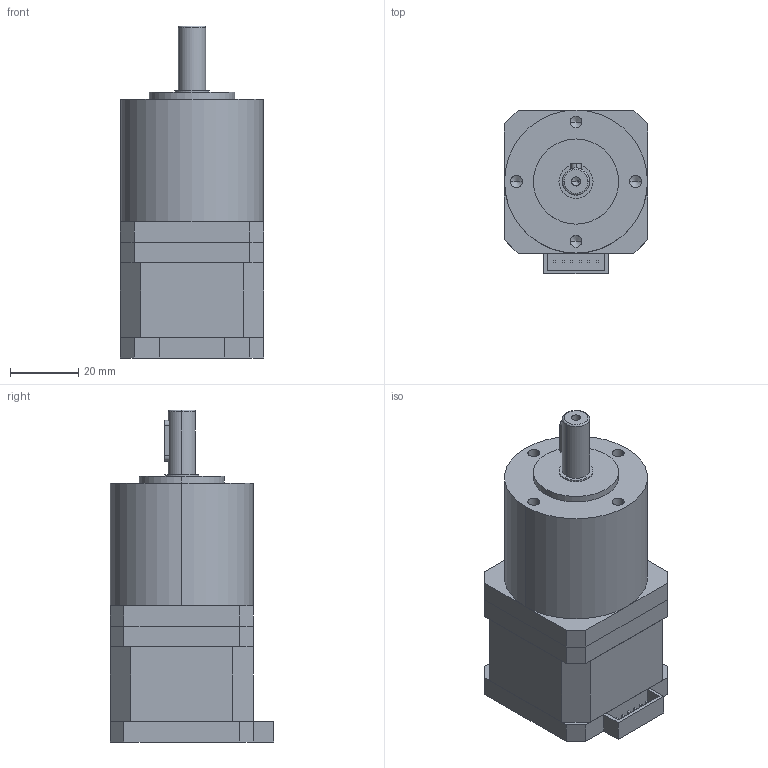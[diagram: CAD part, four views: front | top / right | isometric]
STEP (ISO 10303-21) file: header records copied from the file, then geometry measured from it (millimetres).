
FILE_DESCRIPTION (( 'STEP AP203' ), '1' );
FILE_NAME ('42PG005-D17-0434.STEP', '2019-09-21T08:20:57', ( 'China' ), ( 'Home' ), 'SwSTEP 2.0', 'SolidWorks 2016', '' );
FILE_SCHEMA (( 'CONFIG_CONTROL_DESIGN' ));
Length unit declared in the file: millimetre
Products named in the file (1): 42PG005-D17-0434
Bounding box: 42 x 48 x 97.5 mm (x, y, z)
Volume: 120336.2 mm3; surface area: 26441.5 mm2
Topology: 5 solids, 5 shells, 123 faces, 291 edges, 183 vertices
Faces by surface type: plane 90, cylinder 21, cone 10, bspline 2
Entity records: 3508 total; most frequent: CARTESIAN_POINT 624, DIRECTION 569, ORIENTED_EDGE 562, EDGE_CURVE 281, LINE 233, VECTOR 233, VERTEX_POINT 183, AXIS2_PLACEMENT_3D 168
